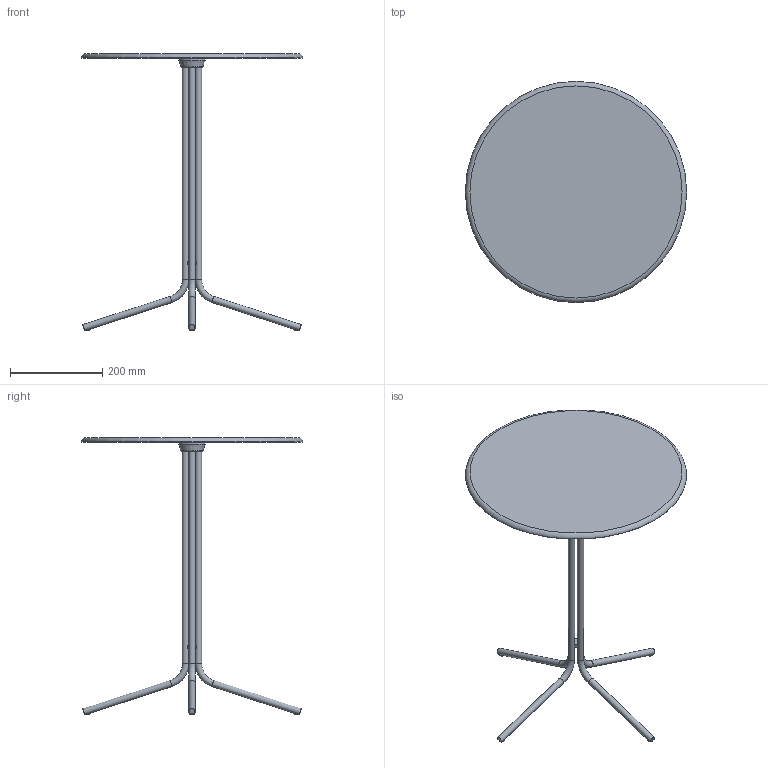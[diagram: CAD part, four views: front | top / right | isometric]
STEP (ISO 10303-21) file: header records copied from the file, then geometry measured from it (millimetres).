
FILE_DESCRIPTION((''),'2;1');
FILE_NAME('C:\AutodeskVault\AreaLavoro\Progetti\SoVeT Italia\2. Tavolini_Coffee tables\Genius\Genius Round\Web file\Genius Round Web\P4708.stp','2012-06-19T12:03:59',('Gianluca'),('So.Ve.T. s.r.l.'),'Autodesk Inventor 2013','Autodesk Inventor 2013','IL PROGETTO E'' DI ESCLUSIVA PROPRIETA'' DELLA SO.VE.T. srl. E'' VIETATA OGNI RIPRODUZIONE TOTALE O PARZIALE E QUALSIASI UTILIZZO NON AUTORIZZATO. ');
FILE_SCHEMA(('AUTOMOTIVE_DESIGN { 1 0 10303 214 1 1 1 1 }'));
Length unit declared in the file: millimetre
Products named in the file (1): P4708 LCTR Contorno semplificato
Bounding box: 480 x 480 x 600 mm (x, y, z)
Volume: 2265221.4 mm3; surface area: 498931.8 mm2
Topology: 1 solids, 1 shells, 68 faces, 193 edges, 122 vertices
Faces by surface type: plane 21, cylinder 17, cone 15, torus 11, sphere 4
Full cylindrical faces by diameter (mm): 10 x4, 14 x8, 58 x1
Entity records: 1972 total; most frequent: CARTESIAN_POINT 419, DIRECTION 316, ORIENTED_EDGE 258, AXIS2_PLACEMENT_3D 150, EDGE_CURVE 129, EDGE_LOOP 104, VERTEX_POINT 93, CIRCLE 69
